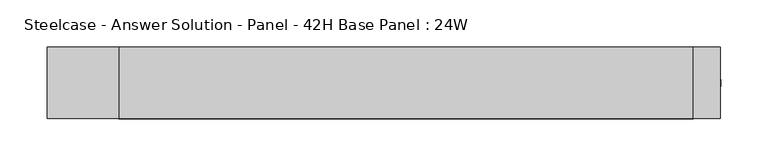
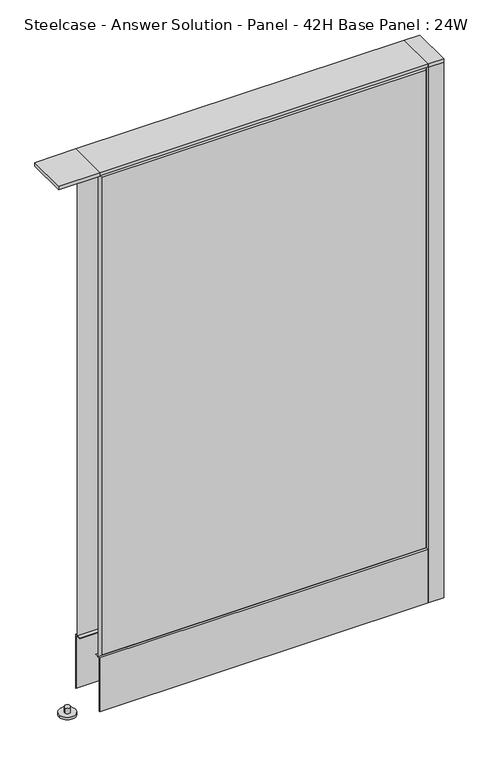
"""IFC4 building model written with IfcOpenShell, lengths in millimetres: furniture geometry, Steelcase - Answer Solution - Panel - 42H Base Panel : 24W."""

import ifcopenshell
import ifcopenshell.guid

model = None  # the IFC model being written
_history = None  # IfcOwnerHistory: only IFC2X3 demands one
_inside = {}  # id of a spatial element -> (the spatial element, [elements in it])
_under = {}  # id of a project, library or spatial element -> (it, [spatial elements below it])
_declared = {}  # id of a project -> (the project, [libraries it declares])
_typed = {}  # id of a type object -> (the type object, [elements of that type])
_made_of = {}  # id of a material, layer set ... -> (it, [elements and type objects made of it])


def new_model(schema):
    """Start an empty IFC model of exactly this schema.

    Asked for "IFC4X3", IfcOpenShell would pick the latest addendum, in which some entities
    have other attributes; the version numbers below select the first issue.
    IFC2X3 requires an IfcOwnerHistory on every rooted entity: one is made here for all.
    """
    global model, _history
    if schema == "IFC4X3":
        model = ifcopenshell.file(schema_version=(4, 3, 0, 0))
    else:
        model = ifcopenshell.file(schema=schema)
    _inside.clear()
    _under.clear()
    _declared.clear()
    _typed.clear()
    _made_of.clear()
    _history = None
    if model.schema == "IFC2X3":
        org = make("IfcOrganization", Name="unknown")
        user = make(
            "IfcPersonAndOrganization",
            ThePerson=make("IfcPerson", FamilyName="unknown"),
            TheOrganization=org,
        )
        app = make(
            "IfcApplication",
            ApplicationDeveloper=org,
            Version="unknown",
            ApplicationFullName="unknown",
            ApplicationIdentifier="unknown",
        )
        _history = make(
            "IfcOwnerHistory",
            OwningUser=user,
            OwningApplication=app,
            ChangeAction="ADDED",
            CreationDate=0,
        )
    return model


def make(cls, **values):
    """One entity of the class cls with the attributes given. An attribute that is None is left unset."""
    return model.create_entity(
        cls, **{name: value for name, value in values.items() if value is not None}
    )


def rooted(cls, **values):
    """An entity with a GlobalId (a new one), such as an element, a storey or a relation."""
    return make(cls, GlobalId=ifcopenshell.guid.new(), OwnerHistory=_history, **values)


def si_unit(unit_type, name, prefix=None):
    """IfcSIUnit, for example si_unit("LENGTHUNIT", "METRE", prefix="MILLI")."""
    return make("IfcSIUnit", UnitType=unit_type, Prefix=prefix, Name=name)


def assignment(units):
    """IfcUnitAssignment: the units of a project."""
    return None if units is None else make("IfcUnitAssignment", Units=units)


def point(xyz):
    """IfcCartesianPoint."""
    return None if xyz is None else make("IfcCartesianPoint", Coordinates=xyz)


def direction(xyz):
    """IfcDirection."""
    return None if xyz is None else make("IfcDirection", DirectionRatios=xyz)


def frame(location, z_axis=None, x_axis=None):
    """IfcAxis2Placement3D, a coordinate frame: its origin and axes. An axis left out is left unset."""
    return make(
        "IfcAxis2Placement3D",
        Location=point(location),
        Axis=direction(z_axis),
        RefDirection=direction(x_axis),
    )


def frame_2d(location, x_axis=None):
    """IfcAxis2Placement2D, a coordinate frame in the plane: its origin and x axis."""
    return make(
        "IfcAxis2Placement2D", Location=point(location), RefDirection=direction(x_axis)
    )


def origin():
    """The frame at (0, 0, 0) with its axes left unset."""
    return frame((0.0, 0.0, 0.0))


def place(relative_to, where):
    """IfcLocalPlacement: puts the frame where relative to a parent placement (None: the world)."""
    return make(
        "IfcLocalPlacement", PlacementRelTo=relative_to, RelativePlacement=where
    )


def context(
    kind, dimensions, precision=None, world=None, true_north=None, identifier=None
):
    """IfcGeometricRepresentationContext, for example the 3D "Model" context."""
    return make(
        "IfcGeometricRepresentationContext",
        ContextIdentifier=identifier,
        ContextType=kind,
        CoordinateSpaceDimension=dimensions,
        Precision=precision,
        WorldCoordinateSystem=world,
        TrueNorth=true_north,
    )


def project(units=None, contexts=None):
    """IfcProject with its units and contexts."""
    return rooted(
        "IfcProject",
        Name="project",
        RepresentationContexts=contexts,
        UnitsInContext=assignment(units),
    )


def spatial(cls, under=None, at=None, **own):
    """A site, building, storey or space (cls), placed at a placement, below another one or the project."""
    s = rooted(cls, ObjectPlacement=at, **own)
    if under is not None:
        _under.setdefault(under.id(), (under, []))[1].append(s)
    return s


def polyline(points):
    """IfcPolyline through the points."""
    return make("IfcPolyline", Points=[point(p) for p in points])


def circle_curve(where, radius):
    """IfcCircle in the frame where."""
    return make("IfcCircle", Position=where, Radius=radius)


def trimmed(basis, trim1, trim2, sense, master):
    """IfcTrimmedCurve: the piece of a basis curve between two trims."""
    return make(
        "IfcTrimmedCurve",
        BasisCurve=basis,
        Trim1=trim1,
        Trim2=trim2,
        SenseAgreement=sense,
        MasterRepresentation=master,
    )


def segment(curve, same_sense, transition):
    """IfcCompositeCurveSegment."""
    return make(
        "IfcCompositeCurveSegment",
        Transition=transition,
        SameSense=same_sense,
        ParentCurve=curve,
    )


def composite_curve(segments, self_intersect=None):
    """IfcCompositeCurve: segments joined end to end."""
    return make("IfcCompositeCurve", Segments=segments, SelfIntersect=self_intersect)


def outline(outer, holes=None, kind="AREA"):
    """IfcArbitraryClosedProfileDef: a profile drawn as a closed curve; with holes, ...WithVoids."""
    if holes is None:
        return make("IfcArbitraryClosedProfileDef", ProfileType=kind, OuterCurve=outer)
    return make(
        "IfcArbitraryProfileDefWithVoids",
        ProfileType=kind,
        OuterCurve=outer,
        InnerCurves=holes,
    )


def extrude(swept, where, along, depth):
    """IfcExtrudedAreaSolid: the profile swept, set in the frame where, extruded along a direction by depth."""
    return make(
        "IfcExtrudedAreaSolid",
        SweptArea=swept,
        Position=where,
        ExtrudedDirection=direction(along),
        Depth=depth,
    )


def faces_of(points, faces, orient=None, outer=None):
    """IfcFace entities. A face is a list of loops; a loop is a list of indices into points, from 0.

    orient and outer hold one flag for each loop. By default every Orientation is true, the
    first loop of a face is its IfcFaceOuterBound and the others are IfcFaceBound.
    """
    made = []
    for i, loops in enumerate(faces):
        bounds = []
        for j, loop in enumerate(loops):
            is_outer = j == 0 if outer is None else outer[i][j]
            bounds.append(
                make(
                    "IfcFaceOuterBound" if is_outer else "IfcFaceBound",
                    Bound=make("IfcPolyLoop", Polygon=[points[k] for k in loop]),
                    Orientation=True if orient is None else orient[i][j],
                )
            )
        made.append(make("IfcFace", Bounds=bounds))
    return made


def faceted_brep(points, faces, orient=None, outer=None, voids=None):
    """IfcFacetedBrep: a solid bounded by flat faces; with voids (closed shells), ...WithVoids."""
    shared = [point(p) for p in points]
    hull = make("IfcClosedShell", CfsFaces=faces_of(shared, faces, orient, outer))
    if voids is None:
        return make("IfcFacetedBrep", Outer=hull)
    return make(
        "IfcFacetedBrepWithVoids",
        Outer=hull,
        Voids=[
            make(cls, CfsFaces=faces_of(shared, fs, o, b)) for cls, fs, o, b in voids
        ],
    )


def shape(context_of_items, identifier, shape_type, items):
    """IfcShapeRepresentation: the items that make up one representation, for example the "Body"."""
    return make(
        "IfcShapeRepresentation",
        ContextOfItems=context_of_items,
        RepresentationIdentifier=identifier,
        RepresentationType=shape_type,
        Items=items,
    )


def source(mapping_origin, context_of_items, identifier, shape_type, items):
    """IfcRepresentationMap: a shape defined once, which mapped items show again and again."""
    return make(
        "IfcRepresentationMap",
        MappingOrigin=mapping_origin,
        MappedRepresentation=shape(context_of_items, identifier, shape_type, items),
    )


def transform(
    local_origin,
    x_axis=None,
    y_axis=None,
    z_axis=None,
    scale=None,
    scale2=None,
    scale3=None,
    uniform=True,
):
    """IfcCartesianTransformationOperator3D, or its non-uniform kind. x_axis, y_axis, z_axis: its Axis1, 2, 3."""
    if uniform:
        return make(
            "IfcCartesianTransformationOperator3D",
            Axis1=direction(x_axis),
            Axis2=direction(y_axis),
            LocalOrigin=point(local_origin),
            Scale=scale,
            Axis3=direction(z_axis),
        )
    return make(
        "IfcCartesianTransformationOperator3DnonUniform",
        Axis1=direction(x_axis),
        Axis2=direction(y_axis),
        LocalOrigin=point(local_origin),
        Scale=scale,
        Axis3=direction(z_axis),
        Scale2=scale2,
        Scale3=scale3,
    )


def mapped(mapping_source, mapping_target):
    """IfcMappedItem: shows the shape of a source again, moved by a transform."""
    return make(
        "IfcMappedItem", MappingSource=mapping_source, MappingTarget=mapping_target
    )


def made_of(thing, what):
    """Note that an element or type object is made of a material, layer set ...; save() writes the relation."""
    if what is not None:
        _made_of.setdefault(what.id(), (what, []))[1].append(thing)
    return thing


def element(
    cls,
    number,
    at=None,
    inside=None,
    cuts=None,
    type_object=None,
    material=None,
    context=None,
    identifier="Body",
    shape_type=None,
    held_by="IfcProductDefinitionShape",
    body=None,
    shapes=None,
    **own,
):
    """One element of the class cls, such as IfcWall. Its Tag is "e" and its number.

    at: its placement. inside: the storey or other place that contains it. cuts: it is an
    opening in that element (IfcRelVoidsElement). A single representation is given by context,
    identifier, shape_type and body (its items); several are given by shapes. held_by: the class
    of the entity that holds the representations. save() writes the other relations.
    """
    e = rooted(cls, Tag="e%d" % number, ObjectPlacement=at, **own)
    if body is not None:
        shapes = [shape(context, identifier, shape_type, body)]
    if shapes is not None:
        e.Representation = make(held_by, Representations=shapes)
    if inside is not None:
        _inside.setdefault(inside.id(), (inside, []))[1].append(e)
    if cuts is not None:
        rooted(
            "IfcRelVoidsElement", RelatingBuildingElement=cuts, RelatedOpeningElement=e
        )
    if type_object is not None:
        _typed.setdefault(type_object.id(), (type_object, []))[1].append(e)
    return made_of(e, material)


def aggregate(whole, parts):
    """IfcRelAggregates: a whole, such as a stair, and the parts it consists of."""
    return rooted("IfcRelAggregates", RelatingObject=whole, RelatedObjects=parts)


def save(model, path):
    """Write the relations noted so far, then the file.

    IfcRelAggregates (storeys below a building ...), IfcRelContainedInSpatialStructure (elements
    in a storey), IfcRelDefinesByType, IfcRelAssociatesMaterial and IfcRelDeclares: one each for
    every whole, place, type object, material and project.
    """
    for whole, parts in _under.values():
        aggregate(whole, parts)
    for where, things in _inside.values():
        rooted(
            "IfcRelContainedInSpatialStructure",
            RelatedElements=things,
            RelatingStructure=where,
        )
    for kind, things in _typed.values():
        rooted("IfcRelDefinesByType", RelatedObjects=things, RelatingType=kind)
    for what, things in _made_of.values():
        rooted("IfcRelAssociatesMaterial", RelatedObjects=things, RelatingMaterial=what)
    for by, libraries in _declared.values():
        rooted("IfcRelDeclares", RelatingContext=by, RelatedDefinitions=libraries)
    model.write(path)


def steelcase_answer_solution_panel_42h_base_panel_24w_07f767fc(model_context):
    return source(origin(), model_context, "Body", "SolidModel", [
        extrude(outline(composite_curve([segment(trimmed(circle_curve(frame_2d((319.024, 0.0039657)), 5.08), [point((324.104, 0.0039657))], [point((313.944, 0.0039657))], False, "CARTESIAN"), True, "CONTINUOUS"), segment(trimmed(circle_curve(frame_2d((319.024, 0.0039657)), 5.08), [point((313.944, 0.0039657))], [point((324.104, 0.0039657))], False, "CARTESIAN"), True, "CONTINUOUS")], self_intersect=False)), frame((0.0, 0.0, 5.0799671), z_axis=(0.0, 0.0, 1.0), x_axis=(1.0, 0.0, 0.0)), (0.0, 0.0, 1.0), 10.414),
        extrude(outline(composite_curve([segment(trimmed(circle_curve(frame_2d((319.024, 0.0039657)), 15.24), [point((334.264, 0.0039657))], [point((303.784, 0.0039657))], False, "CARTESIAN"), True, "CONTINUOUS"), segment(trimmed(circle_curve(frame_2d((319.024, 0.0039657)), 15.24), [point((303.784, 0.0039657))], [point((334.264, 0.0039657))], False, "CARTESIAN"), True, "CONTINUOUS")], self_intersect=False)), frame((0.0, 0.0, -3.29e-05), z_axis=(0.0, 0.0, 1.0), x_axis=(1.0, 0.0, 0.0)), (0.0, 0.0, 1.0), 5.08),
        extrude(outline(polyline([(333.375, 38.1039851), (333.375, -38.0960149), (304.8, -38.0960149), (304.8, 38.1039851), (333.375, 38.1039851)])), frame((0.0, 0.0, 1065.8348), z_axis=(0.0, 0.0, 1.0), x_axis=(1.0, 0.0, 0.0)), (0.0, 0.0, 1.0), 7.3151671),
        extrude(outline(polyline([(333.375, 38.1039851), (333.375, -38.0960149), (304.8, -38.0960149), (304.8, 38.1039851), (333.375, 38.1039851)])), frame((0.0, 0.0, 15.4939671), z_axis=(0.0, 0.0, 1.0), x_axis=(1.0, 0.0, 0.0)), (0.0, 0.0, 1.0), 1050.3408329),
        extrude(outline(composite_curve([segment(trimmed(circle_curve(frame_2d((-342.9, 0.0039657)), 5.08), [point((-347.98, 0.0039657))], [point((-337.82, 0.0039657))], False, "CARTESIAN"), True, "CONTINUOUS"), segment(trimmed(circle_curve(frame_2d((-342.9, 0.0039657)), 5.08), [point((-337.82, 0.0039657))], [point((-347.98, 0.0039657))], False, "CARTESIAN"), True, "CONTINUOUS")], self_intersect=False)), frame((0.0, 0.0, 5.0799671), z_axis=(0.0, 0.0, 1.0), x_axis=(1.0, 0.0, 0.0)), (0.0, 0.0, 1.0), 10.414),
        extrude(outline(composite_curve([segment(trimmed(circle_curve(frame_2d((-342.9, 0.0039657)), 15.24), [point((-358.14, 0.0039657))], [point((-327.66, 0.0039657))], False, "CARTESIAN"), True, "CONTINUOUS"), segment(trimmed(circle_curve(frame_2d((-342.9, 0.0039657)), 15.24), [point((-327.66, 0.0039657))], [point((-358.14, 0.0039657))], False, "CARTESIAN"), True, "CONTINUOUS")], self_intersect=False)), frame((0.0, 0.0, -3.29e-05), z_axis=(0.0, 0.0, 1.0), x_axis=(1.0, 0.0, 0.0)), (0.0, 0.0, 1.0), 5.08),
        extrude(outline(polyline([(-381.0, 38.1039851), (-304.8, 38.1039851), (-304.8, -38.0960149), (-381.0, -38.0960149), (-381.0, 38.1039851)])), frame((0.0, 0.0, 1065.8348), z_axis=(0.0, 0.0, 1.0), x_axis=(1.0, 0.0, 0.0)), (0.0, 0.0, 1.0), 7.3151671),
        faceted_brep([(-299.974, 38.1635011, 1061.974), (299.974, 38.1635011, 1061.974), (299.974, 38.1635011, 125.476), (-299.974, 38.1635011, 125.476), (-304.8, 33.3375011, 1066.8), (-304.8, 33.3375011, 120.65), (304.8, 33.3375011, 120.65), (304.8, 33.3375011, 1066.8)], [[[0, 1, 2, 3]], [[4, 5, 6, 7]], [[4, 7, 1, 0]], [[7, 6, 2, 1]], [[6, 5, 3, 2]], [[5, 4, 0, 3]]]),
        faceted_brep([(299.974, -38.1635011, 1061.974), (-299.974, -38.1635011, 1061.974), (-299.974, -38.1635011, 125.476), (299.974, -38.1635011, 125.476), (304.8, -33.3375011, 1066.8), (304.8, -33.3375011, 120.65), (-304.8, -33.3375011, 120.65), (-304.8, -33.3375011, 1066.8)], [[[0, 1, 2, 3]], [[4, 5, 6, 7]], [[4, 7, 1, 0]], [[7, 6, 2, 1]], [[6, 5, 3, 2]], [[5, 4, 0, 3]]]),
        extrude(outline(polyline([(304.8, 38.1000194), (304.8, -38.1000194), (-304.8, -38.1000194), (-304.8, 38.1000194), (304.8, 38.1000194)])), frame((0.0, 0.0, 1066.8), z_axis=(0.0, 0.0, 1.0), x_axis=(1.0, 0.0, 0.0)), (0.0, 0.0, 1.0), 6.35),
        extrude(outline(polyline([(25.4000011, 119.8575157), (25.4000011, 120.65), (38.1000194, 120.65), (38.1000194, 15.494), (37.3075215, 15.494), (37.3075215, 119.8575157), (25.4000011, 119.8575157)])), frame((-304.8, 0.0, 0.0), z_axis=(1.0, 0.0, 0.0), x_axis=(0.0, 1.0, 0.0)), (0.0, 0.0, 1.0), 609.6),
        extrude(outline(polyline([(-25.4000011, 119.8575157), (-37.3075215, 119.8575157), (-37.3075215, 15.494), (-38.1000194, 15.494), (-38.1000194, 120.65), (-25.4000011, 120.65), (-25.4000011, 119.8575157)])), frame((-304.8, 0.0, 0.0), z_axis=(1.0, 0.0, 0.0), x_axis=(0.0, 1.0, 0.0)), (0.0, 0.0, 1.0), 609.6),
    ])


if __name__ == "__main__":
    model = new_model("IFC4")
    model_context = context("Model", 3, world=origin())
    ifc_project = project(units=[si_unit("LENGTHUNIT", "METRE", prefix="MILLI")], contexts=[model_context])
    site = spatial("IfcSite", under=ifc_project)
    building = spatial("IfcBuilding", under=site)
    placement = place(None, origin())
    steelcase_answer_solution_panel_42h_base_panel_24w_shape = steelcase_answer_solution_panel_42h_base_panel_24w_07f767fc(model_context)
    element("IfcFurniture", 1, ObjectType="Steelcase - Answer Solution - Panel - 42H Base Panel : 24W", at=placement, inside=building, context=model_context, shape_type="MappedRepresentation", body=[
        mapped(steelcase_answer_solution_panel_42h_base_panel_24w_shape, transform((0.0, 0.0, 0.0), x_axis=(1.0, 0.0, 0.0), y_axis=(0.0, 1.0, 0.0), z_axis=(0.0, 0.0, 1.0))),
    ])
    save(model, "model.ifc")
